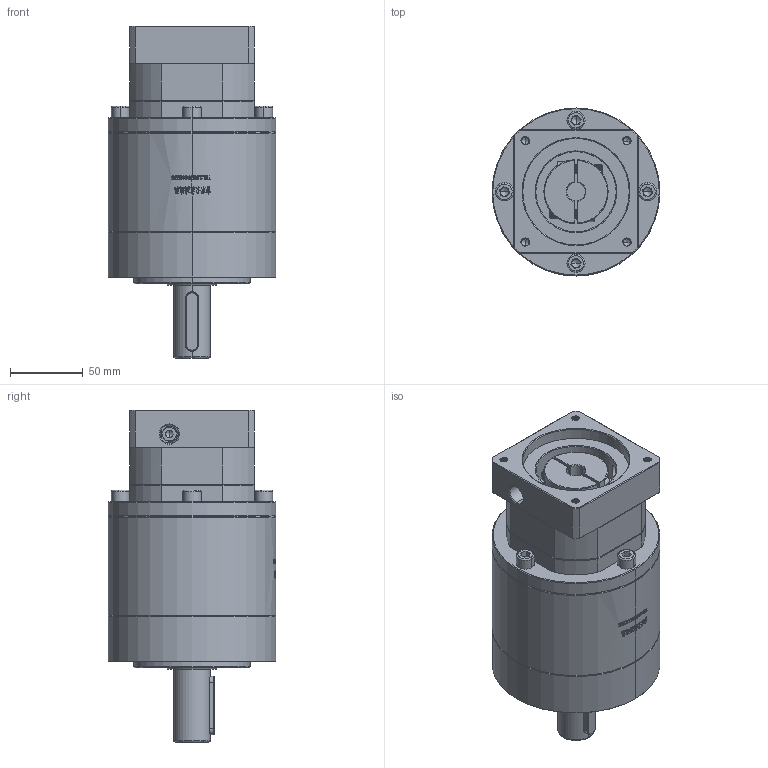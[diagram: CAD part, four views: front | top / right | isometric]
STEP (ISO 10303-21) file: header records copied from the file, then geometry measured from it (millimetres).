
FILE_DESCRIPTION (( 'STEP AP214' ), '1' );
FILE_NAME ('ZE120A-D25-L3-12.7-73-69.5X69.5-M6.step', '2023-03-13T06:49:38', ( '' ), ( '' ), 'SwSTEP 2.0', 'SolidWorks 2016', '' );
FILE_SCHEMA (( 'AUTOMOTIVE_DESIGN' ));
Length unit declared in the file: millimetre
Products named in the file (1): ZE120A-D25-L3-12.7-73-69.5X69.5-M6
Bounding box: 115 x 115 x 227.5 mm (x, y, z)
Volume: 1512940.5 mm3; surface area: 132431.6 mm2
Topology: 5 solids, 6 shells, 2018 faces, 5332 edges, 3405 vertices
Faces by surface type: plane 862, cylinder 500, bspline 333, cone 308, torus 15
Entity records: 116500 total; most frequent: CARTESIAN_POINT 48952, ORIENTED_EDGE 10588, DIRECTION 7931, EDGE_CURVE 5294, VERTEX_POINT 3405, VECTOR 2803, LINE 2803, AXIS2_PLACEMENT_3D 2564
